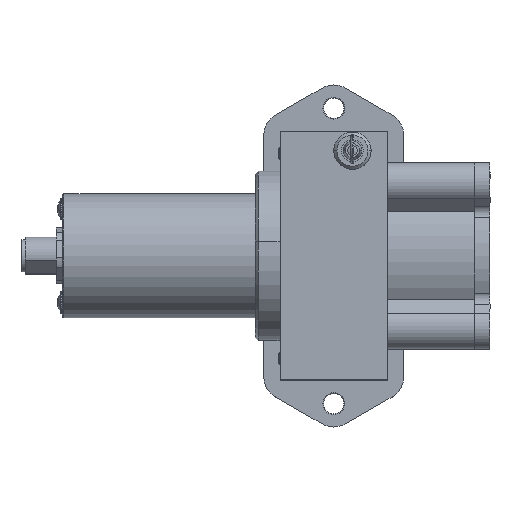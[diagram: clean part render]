
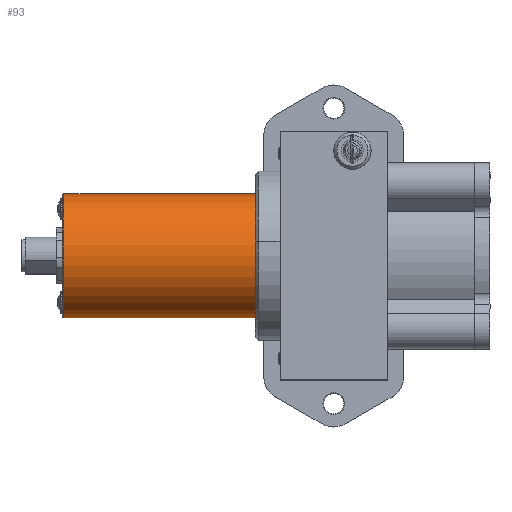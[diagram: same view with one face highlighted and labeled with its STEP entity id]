
A CAD part, top view. The second image highlights one B-rep face of the part: STEP entity #93.
In plain terms, the highlighted cylindrical face has radius 20 mm (diameter 40 mm), a partial arc.
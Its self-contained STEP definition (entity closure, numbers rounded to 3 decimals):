
#81 = ORIENTED_EDGE ( 'NONE', *, *, #106, .T. ) ;
#82 = ORIENTED_EDGE ( 'NONE', *, *, #217, .T. ) ;
#85 = ORIENTED_EDGE ( 'NONE', *, *, #131, .T. ) ;
#89 = ORIENTED_EDGE ( 'NONE', *, *, #98, .F. ) ;
#93 = ADVANCED_FACE ( 'NONE', ( #16312 ), #16353, .T. ) ;
#96 = VERTEX_POINT ( 'NONE', #16342 ) ;
#98 = EDGE_CURVE ( 'NONE', #134, #96, #16341, .T. ) ;
#106 = EDGE_CURVE ( 'NONE', #216, #96, #16505, .T. ) ;
#128 = VERTEX_POINT ( 'NONE', #16543 ) ;
#131 = EDGE_CURVE ( 'NONE', #134, #128, #16593, .T. ) ;
#134 = VERTEX_POINT ( 'NONE', #16588 ) ;
#205 = EDGE_LOOP ( 'NONE', ( #89, #85, #82, #81 ) ) ;
#216 = VERTEX_POINT ( 'NONE', #17187 ) ;
#217 = EDGE_CURVE ( 'NONE', #128, #216, #17186, .T. ) ;
#16312 = FACE_OUTER_BOUND ( 'NONE', #205, .T. ) ;
#16341 = LINE ( 'NONE', #16405, #16404 ) ;
#16342 = CARTESIAN_POINT ( 'NONE',  ( -37.5, 20., 0. ) ) ;
#16348 = DIRECTION ( 'NONE',  ( 0., -1., 0. ) ) ;
#16349 = DIRECTION ( 'NONE',  ( 1., 0., 0. ) ) ;
#16350 = CARTESIAN_POINT ( 'NONE',  ( -37.5, 0., 0. ) ) ;
#16351 = AXIS2_PLACEMENT_3D ( 'NONE', #16350, #16349, #16348 ) ;
#16353 = CYLINDRICAL_SURFACE ( 'NONE', #16351, 20. ) ;
#16403 = DIRECTION ( 'NONE',  ( 1., 0., 0. ) ) ;
#16404 = VECTOR ( 'NONE', #16403, 1000. ) ;
#16405 = CARTESIAN_POINT ( 'NONE',  ( -37.5, 20., 0. ) ) ;
#16502 = DIRECTION ( 'NONE',  ( 0., -1., 0. ) ) ;
#16503 = DIRECTION ( 'NONE',  ( -1., 0., 0. ) ) ;
#16504 = AXIS2_PLACEMENT_3D ( 'NONE', #16510, #16503, #16502 ) ;
#16505 = CIRCLE ( 'NONE', #16504, 20. ) ;
#16510 = CARTESIAN_POINT ( 'NONE',  ( -37.5, 0., 0. ) ) ;
#16543 = CARTESIAN_POINT ( 'NONE',  ( -99., -20., 0. ) ) ;
#16588 = CARTESIAN_POINT ( 'NONE',  ( -99., 20., 0. ) ) ;
#16589 = DIRECTION ( 'NONE',  ( 0., -1., 0. ) ) ;
#16590 = DIRECTION ( 'NONE',  ( 1., 0., 0. ) ) ;
#16591 = CARTESIAN_POINT ( 'NONE',  ( -99., 0., 0. ) ) ;
#16592 = AXIS2_PLACEMENT_3D ( 'NONE', #16591, #16590, #16589 ) ;
#16593 = CIRCLE ( 'NONE', #16592, 20. ) ;
#17183 = DIRECTION ( 'NONE',  ( 1., 0., 0. ) ) ;
#17184 = VECTOR ( 'NONE', #17183, 1000. ) ;
#17185 = CARTESIAN_POINT ( 'NONE',  ( -37.5, -20., 0. ) ) ;
#17186 = LINE ( 'NONE', #17185, #17184 ) ;
#17187 = CARTESIAN_POINT ( 'NONE',  ( -37.5, -20., 0. ) ) ;
